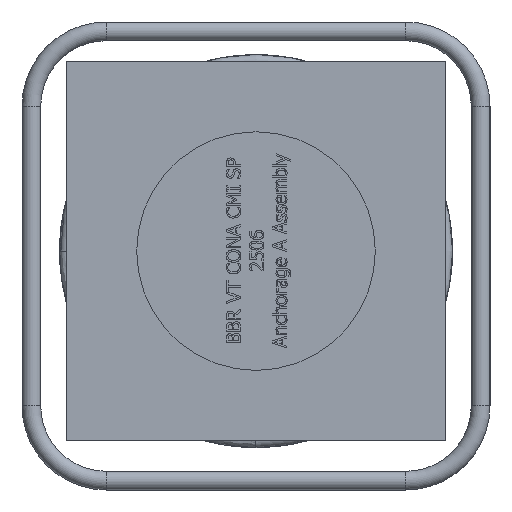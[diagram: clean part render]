
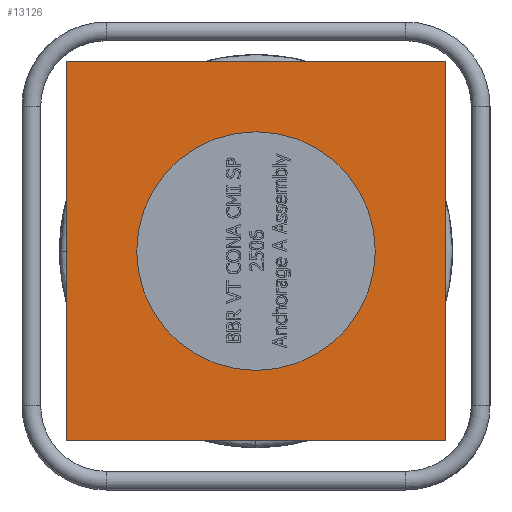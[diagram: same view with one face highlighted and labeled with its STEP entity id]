
A CAD part, left-side view. The second image highlights one B-rep face of the part: STEP entity #13126.
In plain terms, the highlighted planar face has unit normal (-1, 0, 0).
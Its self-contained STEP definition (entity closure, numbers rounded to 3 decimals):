
#1984=LINE('',#27280,#3042);
#1988=LINE('',#27288,#3046);
#1991=LINE('',#27294,#3049);
#1994=LINE('',#27299,#3052);
#3042=VECTOR('',#15554,405.);
#3046=VECTOR('',#15560,405.);
#3049=VECTOR('',#15565,405.);
#3052=VECTOR('',#15570,405.);
#3363=PLANE('',#13596);
#3520=FACE_BOUND('',#5036,.T.);
#4224=FACE_OUTER_BOUND('',#5035,.T.);
#5035=EDGE_LOOP('',(#11625,#11626,#11627,#11628));
#5036=EDGE_LOOP('',(#11629));
#5158=CIRCLE('',#13580,127.5);
#6356=VERTEX_POINT('',#23198);
#6364=VERTEX_POINT('',#27278);
#6365=VERTEX_POINT('',#27279);
#6368=VERTEX_POINT('',#27287);
#6370=VERTEX_POINT('',#27293);
#8114=EDGE_CURVE('',#6356,#6356,#5158,.T.);
#8125=EDGE_CURVE('',#6364,#6365,#1984,.T.);
#8129=EDGE_CURVE('',#6365,#6368,#1988,.T.);
#8132=EDGE_CURVE('',#6368,#6370,#1991,.T.);
#8135=EDGE_CURVE('',#6370,#6364,#1994,.T.);
#11625=ORIENTED_EDGE('',*,*,#8135,.T.);
#11626=ORIENTED_EDGE('',*,*,#8125,.T.);
#11627=ORIENTED_EDGE('',*,*,#8129,.T.);
#11628=ORIENTED_EDGE('',*,*,#8132,.T.);
#11629=ORIENTED_EDGE('',*,*,#8114,.T.);
#13126=ADVANCED_FACE('',(#4224,#3520),#3363,.T.);
#13580=AXIS2_PLACEMENT_3D('',#23199,#15528,#15529);
#13596=AXIS2_PLACEMENT_3D('',#27301,#15572,#15573);
#15528=DIRECTION('center_axis',(1.,0.,0.));
#15529=DIRECTION('ref_axis',(0.,0.,
1.));
#15554=DIRECTION('',(0.,0.,-1.));
#15560=DIRECTION('',(0.,-1.,0.));
#15565=DIRECTION('',(0.,0.,1.));
#15570=DIRECTION('',(0.,1.,0.));
#15572=DIRECTION('center_axis',(-1.,0.,0.));
#15573=DIRECTION('ref_axis',(0.,0.,-1.));
#23198=CARTESIAN_POINT('',(-112.151,0.,-122.247));
#23199=CARTESIAN_POINT('Origin',(-112.151,0.,
5.253));
#27278=CARTESIAN_POINT('',(-112.151,202.5,207.753));
#27279=CARTESIAN_POINT('',(-112.151,202.5,-197.247));
#27280=CARTESIAN_POINT('',(-112.151,202.5,207.753));
#27287=CARTESIAN_POINT('',(-112.151,-202.5,-197.247));
#27288=CARTESIAN_POINT('',(-112.151,202.5,-197.247));
#27293=CARTESIAN_POINT('',(-112.151,-202.5,207.753));
#27294=CARTESIAN_POINT('',(-112.151,-202.5,-197.247));
#27299=CARTESIAN_POINT('',(-112.151,-202.5,207.753));
#27301=CARTESIAN_POINT('Origin',(-112.151,0.,5.253));
